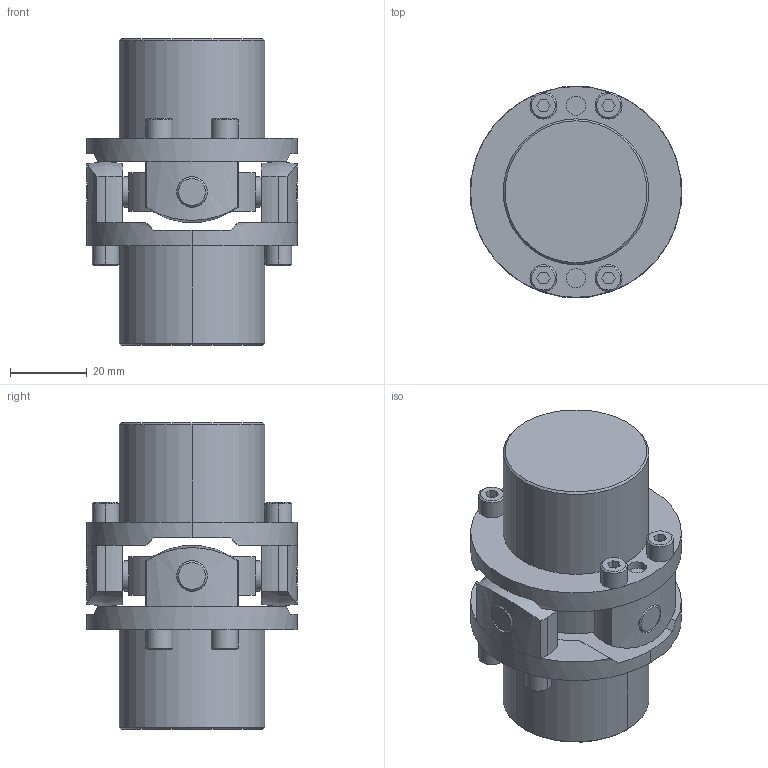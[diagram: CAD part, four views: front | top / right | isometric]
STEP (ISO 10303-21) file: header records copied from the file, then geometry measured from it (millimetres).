
FILE_DESCRIPTION((''),'2;1');
FILE_NAME('UCR-55.stp','2013-05-13T09:41:15',(''),(''),'AutoCAD STEP 2000i','AutoCAD 2000i',', , ');
FILE_SCHEMA(('CONFIG_CONTROL_DESIGN'));
Length unit declared in the file: millimetre
Products named in the file (8): UCR-55; 忣兜1; UCR-5502; UCN55-B017; UCNF-5502; UCN55-B010-1; UCN55-B010; UCN55-SEN
Assembly tree (7 placements, depth 2):
  UCR-55
    忣兜1
    UCR-5502
    UCN55-B017
    UCNF-5502
    UCN55-B010-1
    UCN55-B010
    UCN55-SEN
Bounding box: 55 x 55 x 80 mm (x, y, z)
Volume: 100368.6 mm3; surface area: 25209.9 mm2
Topology: 1 solids, 1 shells, 222 faces, 550 edges, 352 vertices
Faces by surface type: plane 112, cylinder 78, cone 28, sphere 4
Entity records: 7163 total; most frequent: CARTESIAN_POINT 1480, DIRECTION 1250, ORIENTED_EDGE 1100, EDGE_CURVE 550, AXIS2_PLACEMENT_3D 482, VERTEX_POINT 352, VECTOR 286, LINE 286
